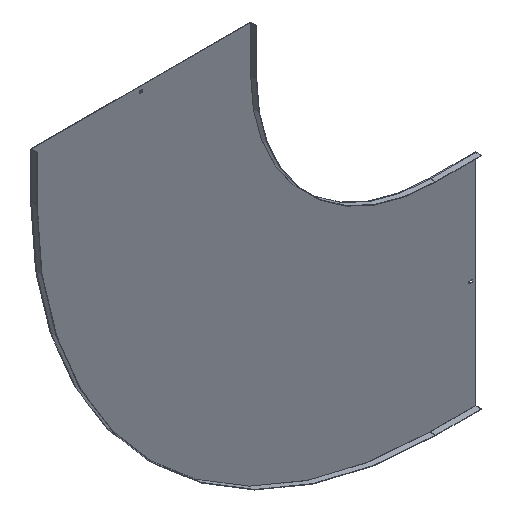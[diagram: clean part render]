
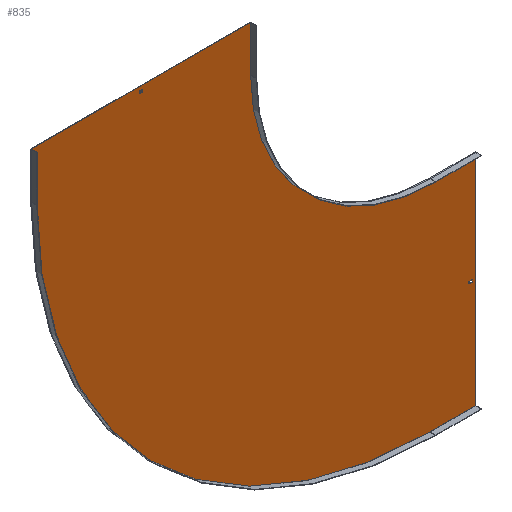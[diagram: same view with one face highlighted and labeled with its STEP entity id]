
A CAD part, isometric view. The second image highlights one B-rep face of the part: STEP entity #835.
In plain terms, the highlighted planar face has unit normal (0, -1, 0).
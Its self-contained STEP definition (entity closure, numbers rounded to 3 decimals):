
#7 = VERTEX_POINT ( 'NONE', #14 ) ;
#13 = DIRECTION ( 'NONE',  ( 1., 0., 0. ) ) ;
#14 = CARTESIAN_POINT ( 'NONE',  ( 150., -1.5, -590. ) ) ;
#23 = VERTEX_POINT ( 'NONE', #422 ) ;
#24 = VECTOR ( 'NONE', #741, 1000. ) ;
#27 = CARTESIAN_POINT ( 'NONE',  ( 0., -1.5, -590. ) ) ;
#33 = VERTEX_POINT ( 'NONE', #685 ) ;
#38 = VECTOR ( 'NONE', #225, 1000. ) ;
#42 = CARTESIAN_POINT ( 'NONE',  ( -1310., -1.5, 0. ) ) ;
#43 = VERTEX_POINT ( 'NONE', #754 ) ;
#44 = DIRECTION ( 'NONE',  ( 0., 0., -1. ) ) ;
#47 = ORIENTED_EDGE ( 'NONE', *, *, #240, .T. ) ;
#54 = DIRECTION ( 'NONE',  ( -1., 0., 0. ) ) ;
#62 = LINE ( 'NONE', #130, #320 ) ;
#72 = AXIS2_PLACEMENT_3D ( 'NONE', #718, #527, #848 ) ;
#77 = CARTESIAN_POINT ( 'NONE',  ( -953.25, -1.5, 0. ) ) ;
#87 = LINE ( 'NONE', #396, #694 ) ;
#93 = VERTEX_POINT ( 'NONE', #447 ) ;
#98 = VERTEX_POINT ( 'NONE', #720 ) ;
#101 = AXIS2_PLACEMENT_3D ( 'NONE', #502, #370, #573 ) ;
#110 = DIRECTION ( 'NONE',  ( -1., 0., 0. ) ) ;
#130 = CARTESIAN_POINT ( 'NONE',  ( -946.75, -1.5, 0. ) ) ;
#133 = CARTESIAN_POINT ( 'NONE',  ( -590., -1.5, 150. ) ) ;
#144 = EDGE_CURVE ( 'NONE', #23, #43, #443, .T. ) ;
#146 = ORIENTED_EDGE ( 'NONE', *, *, #525, .F. ) ;
#149 = ORIENTED_EDGE ( 'NONE', *, *, #734, .F. ) ;
#157 = VECTOR ( 'NONE', #329, 1000. ) ;
#161 = ORIENTED_EDGE ( 'NONE', *, *, #144, .F. ) ;
#164 = VERTEX_POINT ( 'NONE', #42 ) ;
#172 = DIRECTION ( 'NONE',  ( 0., -1., 0. ) ) ;
#178 = LINE ( 'NONE', #633, #185 ) ;
#180 = VERTEX_POINT ( 'NONE', #576 ) ;
#181 = FACE_BOUND ( 'NONE', #290, .T. ) ;
#182 = CARTESIAN_POINT ( 'NONE',  ( 0., -1.5, -946.75 ) ) ;
#185 = VECTOR ( 'NONE', #425, 1000. ) ;
#198 = CARTESIAN_POINT ( 'NONE',  ( 129., -1.5, 0. ) ) ;
#205 = CARTESIAN_POINT ( 'NONE',  ( 0., -1.5, 129. ) ) ;
#208 = ORIENTED_EDGE ( 'NONE', *, *, #456, .F. ) ;
#209 = CARTESIAN_POINT ( 'NONE',  ( -946.75, -1.5, 129. ) ) ;
#219 = DIRECTION ( 'NONE',  ( 1., 0., 0. ) ) ;
#225 = DIRECTION ( 'NONE',  ( 0., 0., 1. ) ) ;
#240 = EDGE_CURVE ( 'NONE', #556, #93, #798, .T. ) ;
#253 = EDGE_LOOP ( 'NONE', ( #149, #146, #411, #208, #272, #625, #846, #558 ) ) ;
#257 = AXIS2_PLACEMENT_3D ( 'NONE', #761, #172, #44 ) ;
#259 = ORIENTED_EDGE ( 'NONE', *, *, #274, .T. ) ;
#261 = LINE ( 'NONE', #508, #450 ) ;
#268 = LINE ( 'NONE', #780, #844 ) ;
#271 = LINE ( 'NONE', #205, #421 ) ;
#272 = ORIENTED_EDGE ( 'NONE', *, *, #299, .F. ) ;
#273 = EDGE_CURVE ( 'NONE', #98, #855, #87, .T. ) ;
#274 = EDGE_CURVE ( 'NONE', #771, #699, #62, .T. ) ;
#290 = EDGE_LOOP ( 'NONE', ( #510, #259, #702, #47 ) ) ;
#299 = EDGE_CURVE ( 'NONE', #7, #749, #476, .T. ) ;
#308 = VECTOR ( 'NONE', #110, 1000. ) ;
#319 = ORIENTED_EDGE ( 'NONE', *, *, #647, .F. ) ;
#320 = VECTOR ( 'NONE', #654, 1000. ) ;
#329 = DIRECTION ( 'NONE',  ( 0., 0., -1. ) ) ;
#334 = VERTEX_POINT ( 'NONE', #352 ) ;
#352 = CARTESIAN_POINT ( 'NONE',  ( -590., -1.5, 0. ) ) ;
#355 = VERTEX_POINT ( 'NONE', #628 ) ;
#364 = VERTEX_POINT ( 'NONE', #27 ) ;
#365 = VECTOR ( 'NONE', #856, 1000. ) ;
#370 = DIRECTION ( 'NONE',  ( 0., 1., 0. ) ) ;
#372 = DIRECTION ( 'NONE',  ( -1., 0., 0. ) ) ;
#374 = EDGE_CURVE ( 'NONE', #364, #7, #178, .T. ) ;
#393 = DIRECTION ( 'NONE',  ( 1., 0., 0. ) ) ;
#394 = LINE ( 'NONE', #133, #157 ) ;
#396 = CARTESIAN_POINT ( 'NONE',  ( 0., -1.5, -953.25 ) ) ;
#399 = DIRECTION ( 'NONE',  ( 0., 0., 1. ) ) ;
#405 = CARTESIAN_POINT ( 'NONE',  ( 138., -1.5, 0. ) ) ;
#407 = VECTOR ( 'NONE', #219, 1000. ) ;
#411 = ORIENTED_EDGE ( 'NONE', *, *, #849, .F. ) ;
#412 = CARTESIAN_POINT ( 'NONE',  ( -1311.5, -1.5, 150. ) ) ;
#421 = VECTOR ( 'NONE', #54, 1000. ) ;
#422 = CARTESIAN_POINT ( 'NONE',  ( 138., -1.5, -946.75 ) ) ;
#425 = DIRECTION ( 'NONE',  ( 1., 0., 0. ) ) ;
#427 = FACE_BOUND ( 'NONE', #608, .T. ) ;
#443 = LINE ( 'NONE', #182, #762 ) ;
#447 = CARTESIAN_POINT ( 'NONE',  ( -953.25, -1.5, 138. ) ) ;
#450 = VECTOR ( 'NONE', #646, 1000. ) ;
#456 = EDGE_CURVE ( 'NONE', #749, #180, #769, .T. ) ;
#476 = LINE ( 'NONE', #673, #24 ) ;
#497 = FACE_OUTER_BOUND ( 'NONE', #253, .T. ) ;
#501 = CIRCLE ( 'NONE', #72, 590. ) ;
#502 = CARTESIAN_POINT ( 'NONE',  ( 0., -1.5, 0. ) ) ;
#508 = CARTESIAN_POINT ( 'NONE',  ( -1310., -1.5, 0. ) ) ;
#510 = ORIENTED_EDGE ( 'NONE', *, *, #578, .T. ) ;
#524 = LINE ( 'NONE', #198, #365 ) ;
#525 = EDGE_CURVE ( 'NONE', #164, #355, #261, .T. ) ;
#527 = DIRECTION ( 'NONE',  ( 0., -1., 0. ) ) ;
#537 = EDGE_CURVE ( 'NONE', #33, #334, #394, .T. ) ;
#541 = ORIENTED_EDGE ( 'NONE', *, *, #618, .F. ) ;
#544 = ORIENTED_EDGE ( 'NONE', *, *, #273, .F. ) ;
#556 = VERTEX_POINT ( 'NONE', #661 ) ;
#558 = ORIENTED_EDGE ( 'NONE', *, *, #537, .F. ) ;
#573 = DIRECTION ( 'NONE',  ( 0., 0., -1. ) ) ;
#576 = CARTESIAN_POINT ( 'NONE',  ( 0., -1.5, -1310. ) ) ;
#578 = EDGE_CURVE ( 'NONE', #93, #771, #268, .T. ) ;
#604 = EDGE_CURVE ( 'NONE', #334, #364, #501, .T. ) ;
#608 = EDGE_LOOP ( 'NONE', ( #161, #319, #544, #541 ) ) ;
#616 = LINE ( 'NONE', #412, #407 ) ;
#618 = EDGE_CURVE ( 'NONE', #43, #98, #524, .T. ) ;
#625 = ORIENTED_EDGE ( 'NONE', *, *, #374, .F. ) ;
#628 = CARTESIAN_POINT ( 'NONE',  ( -1310., -1.5, 150. ) ) ;
#633 = CARTESIAN_POINT ( 'NONE',  ( 0., -1.5, -590. ) ) ;
#636 = CARTESIAN_POINT ( 'NONE',  ( 138., -1.5, -953.25 ) ) ;
#637 = EDGE_CURVE ( 'NONE', #699, #556, #271, .T. ) ;
#641 = PLANE ( 'NONE',  #257 ) ;
#646 = DIRECTION ( 'NONE',  ( 0., 0., 1. ) ) ;
#647 = EDGE_CURVE ( 'NONE', #855, #23, #854, .T. ) ;
#654 = DIRECTION ( 'NONE',  ( 0., 0., -1. ) ) ;
#661 = CARTESIAN_POINT ( 'NONE',  ( -953.25, -1.5, 129. ) ) ;
#673 = CARTESIAN_POINT ( 'NONE',  ( 150., -1.5, -588.5 ) ) ;
#685 = CARTESIAN_POINT ( 'NONE',  ( -590., -1.5, 150. ) ) ;
#689 = CARTESIAN_POINT ( 'NONE',  ( 150., -1.5, -1310. ) ) ;
#694 = VECTOR ( 'NONE', #13, 1000. ) ;
#699 = VERTEX_POINT ( 'NONE', #209 ) ;
#702 = ORIENTED_EDGE ( 'NONE', *, *, #637, .T. ) ;
#704 = CARTESIAN_POINT ( 'NONE',  ( 150., -1.5, -1310. ) ) ;
#714 = CIRCLE ( 'NONE', #101, 1310. ) ;
#718 = CARTESIAN_POINT ( 'NONE',  ( 0., -1.5, 0. ) ) ;
#720 = CARTESIAN_POINT ( 'NONE',  ( 129., -1.5, -953.25 ) ) ;
#734 = EDGE_CURVE ( 'NONE', #355, #33, #616, .T. ) ;
#737 = CARTESIAN_POINT ( 'NONE',  ( -946.75, -1.5, 138. ) ) ;
#741 = DIRECTION ( 'NONE',  ( 0., 0., -1. ) ) ;
#749 = VERTEX_POINT ( 'NONE', #689 ) ;
#754 = CARTESIAN_POINT ( 'NONE',  ( 129., -1.5, -946.75 ) ) ;
#761 = CARTESIAN_POINT ( 'NONE',  ( 0., -1.5, 0. ) ) ;
#762 = VECTOR ( 'NONE', #372, 1000. ) ;
#769 = LINE ( 'NONE', #704, #308 ) ;
#771 = VERTEX_POINT ( 'NONE', #737 ) ;
#780 = CARTESIAN_POINT ( 'NONE',  ( 0., -1.5, 138. ) ) ;
#798 = LINE ( 'NONE', #77, #38 ) ;
#831 = VECTOR ( 'NONE', #399, 1000. ) ;
#835 = ADVANCED_FACE ( 'NONE', ( #427, #497, #181 ), #641, .T. ) ;
#844 = VECTOR ( 'NONE', #393, 1000. ) ;
#846 = ORIENTED_EDGE ( 'NONE', *, *, #604, .F. ) ;
#848 = DIRECTION ( 'NONE',  ( 0., 0., -1. ) ) ;
#849 = EDGE_CURVE ( 'NONE', #180, #164, #714, .T. ) ;
#854 = LINE ( 'NONE', #405, #831 ) ;
#855 = VERTEX_POINT ( 'NONE', #636 ) ;
#856 = DIRECTION ( 'NONE',  ( 0., 0., -1. ) ) ;
